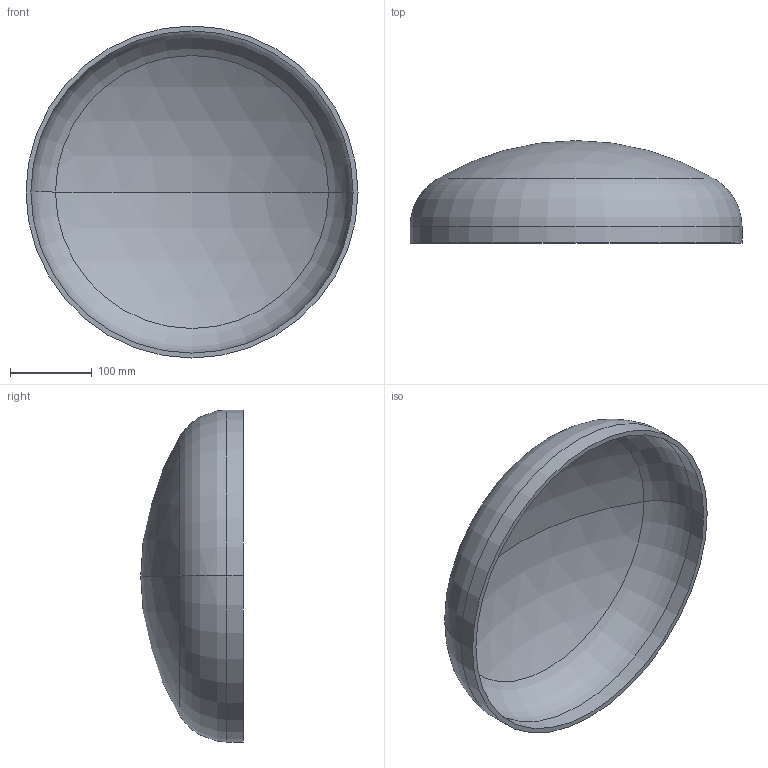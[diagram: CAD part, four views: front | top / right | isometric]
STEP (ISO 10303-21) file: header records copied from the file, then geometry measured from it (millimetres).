
FILE_DESCRIPTION (( 'STEP AP203' ), '1' );
FILE_NAME ('DIN 28013 Korbbogenform_-_Boden DIN 28013 - 406,4 x 20 - I - s=6.step', '2016-07-01T07:48:41', ( '' ), ( '' ), 'SwSTEP 2.0', 'SolidWorks 2013', '' );
FILE_SCHEMA (( 'CONFIG_CONTROL_DESIGN' ));
Length unit declared in the file: millimetre
Products named in the file (1): DIN 28013 Korbbogenform_-_Boden DIN 28013 - 406,4 x 20 - I - s=6
Bounding box: 406.4 x 125.41 x 406.4 mm (x, y, z)
Volume: 1206153.7 mm3; surface area: 409673.8 mm2
Topology: 1 solids, 1 shells, 13 faces, 24 edges, 14 vertices
Faces by surface type: torus 4, cylinder 4, sphere 4, plane 1
Entity records: 407 total; most frequent: DIRECTION 72, CARTESIAN_POINT 52, ORIENTED_EDGE 48, AXIS2_PLACEMENT_3D 34, EDGE_CURVE 24, CIRCLE 20, EDGE_LOOP 14, VERTEX_POINT 14
